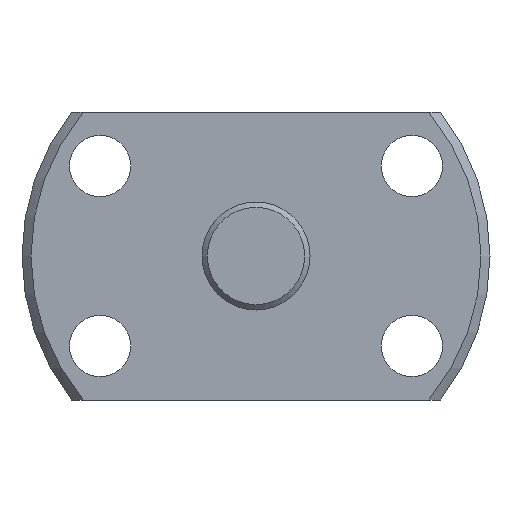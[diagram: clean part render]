
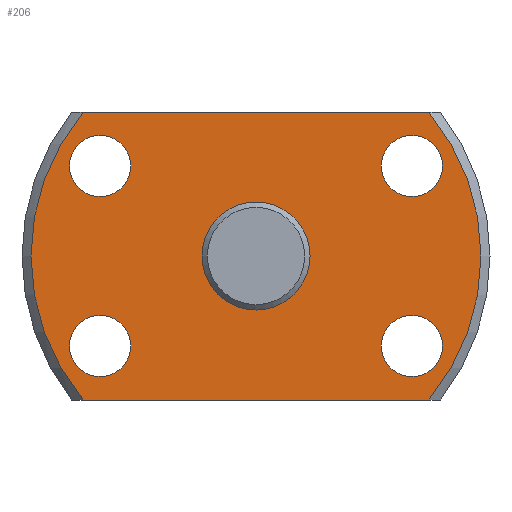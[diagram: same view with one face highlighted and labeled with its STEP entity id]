
A CAD part, left-side view. The second image highlights one B-rep face of the part: STEP entity #206.
In plain terms, the highlighted planar face has unit normal (-1, 0, 0).
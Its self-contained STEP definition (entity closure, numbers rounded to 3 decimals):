
#206 = ADVANCED_FACE( '', ( #315, #316, #317, #318, #319, #320 ), #321, .T. );
#315 = FACE_BOUND( '', #450, .T. );
#316 = FACE_OUTER_BOUND( '', #451, .T. );
#317 = FACE_BOUND( '', #452, .T. );
#318 = FACE_BOUND( '', #453, .T. );
#319 = FACE_BOUND( '', #454, .T. );
#320 = FACE_BOUND( '', #455, .T. );
#321 = PLANE( '', #456 );
#450 = EDGE_LOOP( '', ( #768 ) );
#451 = EDGE_LOOP( '', ( #769, #770, #771, #772 ) );
#452 = EDGE_LOOP( '', ( #773 ) );
#453 = EDGE_LOOP( '', ( #774 ) );
#454 = EDGE_LOOP( '', ( #775 ) );
#455 = EDGE_LOOP( '', ( #776 ) );
#456 = AXIS2_PLACEMENT_3D( '', #777, #778, #779 );
#768 = ORIENTED_EDGE( '', *, *, #998, .T. );
#769 = ORIENTED_EDGE( '', *, *, #976, .F. );
#770 = ORIENTED_EDGE( '', *, *, #995, .F. );
#771 = ORIENTED_EDGE( '', *, *, #999, .F. );
#772 = ORIENTED_EDGE( '', *, *, #1000, .F. );
#773 = ORIENTED_EDGE( '', *, *, #984, .T. );
#774 = ORIENTED_EDGE( '', *, *, #997, .T. );
#775 = ORIENTED_EDGE( '', *, *, #993, .T. );
#776 = ORIENTED_EDGE( '', *, *, #992, .T. );
#777 = CARTESIAN_POINT( '', ( 0., 12.5, 0. ) );
#778 = DIRECTION( '', ( -1., 0., 0. ) );
#779 = DIRECTION( '', ( 0., 0., 1. ) );
#976 = EDGE_CURVE( '', #1155, #1157, #1158, .T. );
#984 = EDGE_CURVE( '', #1171, #1171, #1172, .T. );
#992 = EDGE_CURVE( '', #1186, #1186, #1187, .T. );
#993 = EDGE_CURVE( '', #1188, #1188, #1189, .T. );
#995 = EDGE_CURVE( '', #1190, #1155, #1193, .T. );
#997 = EDGE_CURVE( '', #1195, #1195, #1196, .T. );
#998 = EDGE_CURVE( '', #1197, #1197, #1198, .T. );
#999 = EDGE_CURVE( '', #1199, #1190, #1200, .T. );
#1000 = EDGE_CURVE( '', #1157, #1199, #1201, .T. );
#1155 = VERTEX_POINT( '', #1437 );
#1157 = VERTEX_POINT( '', #1442 );
#1158 = LINE( '', #1443, #1444 );
#1171 = VERTEX_POINT( '', #1468 );
#1172 = CIRCLE( '', #1469, 1.7 );
#1186 = VERTEX_POINT( '', #1484 );
#1187 = CIRCLE( '', #1485, 1.7 );
#1188 = VERTEX_POINT( '', #1486 );
#1189 = CIRCLE( '', #1487, 1.7 );
#1190 = VERTEX_POINT( '', #1488 );
#1193 = CIRCLE( '', #1494, 12.5 );
#1195 = VERTEX_POINT( '', #1496 );
#1196 = CIRCLE( '', #1497, 1.7 );
#1197 = VERTEX_POINT( '', #1498 );
#1198 = CIRCLE( '', #1499, 3. );
#1199 = VERTEX_POINT( '', #1500 );
#1200 = LINE( '', #1501, #1502 );
#1201 = CIRCLE( '', #1503, 12.5 );
#1437 = CARTESIAN_POINT( '', ( 0., 9.605, 8. ) );
#1442 = CARTESIAN_POINT( '', ( 0., -9.605, 8. ) );
#1443 = CARTESIAN_POINT( '', ( 0., 13., 8. ) );
#1444 = VECTOR( '', #1675, 1000. );
#1468 = CARTESIAN_POINT( '', ( 0., 8.66, 3.3 ) );
#1469 = AXIS2_PLACEMENT_3D( '', #1684, #1685, #1686 );
#1484 = CARTESIAN_POINT( '', ( 0., 8.66, -6.7 ) );
#1485 = AXIS2_PLACEMENT_3D( '', #1706, #1707, #1708 );
#1486 = CARTESIAN_POINT( '', ( 0., -8.66, -6.7 ) );
#1487 = AXIS2_PLACEMENT_3D( '', #1709, #1710, #1711 );
#1488 = CARTESIAN_POINT( '', ( 0., 9.605, -8. ) );
#1494 = AXIS2_PLACEMENT_3D( '', #1712, #1713, #1714 );
#1496 = CARTESIAN_POINT( '', ( 0., -8.66, 3.3 ) );
#1497 = AXIS2_PLACEMENT_3D( '', #1718, #1719, #1720 );
#1498 = CARTESIAN_POINT( '', ( 0., 0., -3. ) );
#1499 = AXIS2_PLACEMENT_3D( '', #1721, #1722, #1723 );
#1500 = CARTESIAN_POINT( '', ( 0., -9.605, -8. ) );
#1501 = CARTESIAN_POINT( '', ( 0., -13., -8. ) );
#1502 = VECTOR( '', #1724, 1000. );
#1503 = AXIS2_PLACEMENT_3D( '', #1725, #1726, #1727 );
#1675 = DIRECTION( '', ( 0., -1., 0. ) );
#1684 = CARTESIAN_POINT( '', ( 0., 8.66, 5. ) );
#1685 = DIRECTION( '', ( 1., 0., 0. ) );
#1686 = DIRECTION( '', ( 0., 0., -1. ) );
#1706 = CARTESIAN_POINT( '', ( 0., 8.66, -5. ) );
#1707 = DIRECTION( '', ( 1., 0., 0. ) );
#1708 = DIRECTION( '', ( 0., 0., -1. ) );
#1709 = CARTESIAN_POINT( '', ( 0., -8.66, -5. ) );
#1710 = DIRECTION( '', ( 1., 0., 0. ) );
#1711 = DIRECTION( '', ( 0., 0., -1. ) );
#1712 = CARTESIAN_POINT( '', ( 0., 0., 0. ) );
#1713 = DIRECTION( '', ( 1., 0., 0. ) );
#1714 = DIRECTION( '', ( 0., 0., -1. ) );
#1718 = CARTESIAN_POINT( '', ( 0., -8.66, 5. ) );
#1719 = DIRECTION( '', ( 1., 0., 0. ) );
#1720 = DIRECTION( '', ( 0., 0., -1. ) );
#1721 = CARTESIAN_POINT( '', ( 0., 0., 0. ) );
#1722 = DIRECTION( '', ( 1., 0., 0. ) );
#1723 = DIRECTION( '', ( 0., 0., -1. ) );
#1724 = DIRECTION( '', ( 0., 1., 0. ) );
#1725 = CARTESIAN_POINT( '', ( 0., 0., 0. ) );
#1726 = DIRECTION( '', ( 1., 0., 0. ) );
#1727 = DIRECTION( '', ( 0., 0., -1. ) );
